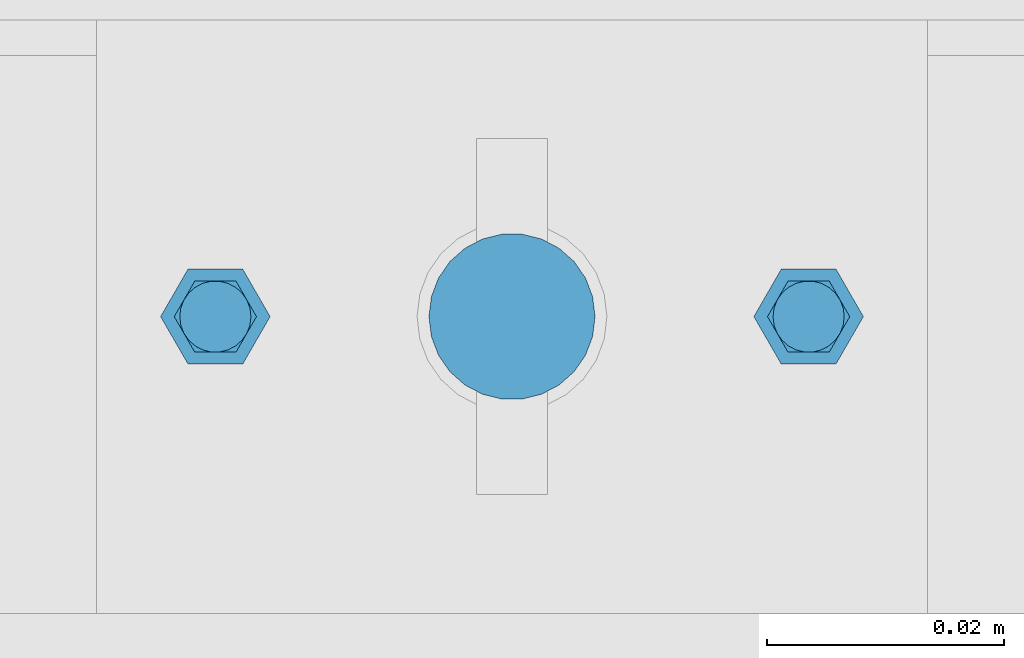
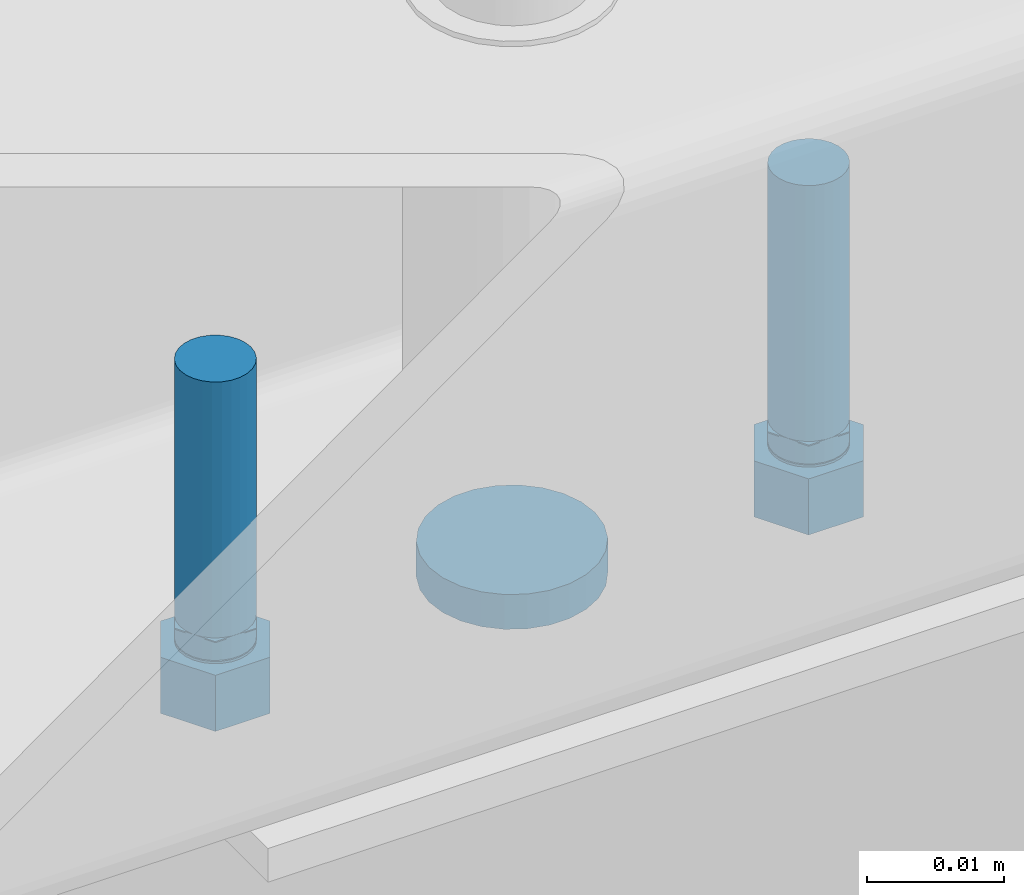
# One storey, part 28 of 91: 5 mechanical fasteners, 2 elements without a shape of their own.
"""IFC2X3 building model written with IfcOpenShell, lengths in millimetres."""

from ifc_helpers import new_model, si_unit, frame, origin_with_axes, origin_2d_with_axis, place, context, subcontext, project, spatial, polyline, circle, outline, extrude, source, transform, mapped, material, type_object, element, aggregate, save


model = new_model("IFC2X3")

# Units and contexts
model_context = context("Model", 3, precision=1e-05, world=origin_with_axes())
body_context = subcontext(model_context, "Body", "Model", "MODEL_VIEW")
ifc_project = project(units=[si_unit("LENGTHUNIT", "METRE", prefix="MILLI"), si_unit("AREAUNIT", "SQUARE_METRE"), si_unit("VOLUMEUNIT", "CUBIC_METRE"), si_unit("MASSUNIT", "GRAM", prefix="KILO"), si_unit("TIMEUNIT", "SECOND"), si_unit("PLANEANGLEUNIT", "RADIAN"), si_unit("SOLIDANGLEUNIT", "STERADIAN"), si_unit("THERMODYNAMICTEMPERATUREUNIT", "DEGREE_CELSIUS"), si_unit("LUMINOUSINTENSITYUNIT", "LUMEN")], contexts=[model_context])

# Site, building, storey
site_placement = place(None, origin_with_axes())
site = spatial("IfcSite", under=ifc_project, at=site_placement, Name="Undefined", CompositionType="ELEMENT")
building_placement = place(site_placement, origin_with_axes())
building = spatial("IfcBuilding", under=site, at=building_placement, Name="Undefined", CompositionType="ELEMENT")
storey_placement = place(building_placement, origin_with_axes())
storey = spatial("IfcBuildingStorey", under=building, at=storey_placement, Name="Undefined", CompositionType="ELEMENT", Elevation=0.0)

# Assembly, mechanical fasteners
assembly_1_placement = place(storey_placement, origin_with_axes())
assembly_1 = element("IfcElementAssembly", 1, at=assembly_1_placement, inside=storey, Name="ROD", AssemblyPlace="NOTDEFINED", PredefinedType="RIGID_FRAME")
ifc_material_1 = material(Name="8.8S")
discrete_accessory_type = type_object("IfcDiscreteAccessoryType", Name="Bolt assembly")
shared_shape_1 = source(origin_with_axes(), body_context, "Body", "SweptSolid", [
    extrude(circle(Radius=3.0, at=origin_2d_with_axis()), frame((0.0, -1.0, 0.0), z_axis=(0.0, 1.0, 0.0), x_axis=(1.0, 0.0, 0.0)), (0.0, 0.0, 1.0), 3.1),
])
mechanical_fastener_1_placement = place(assembly_1_placement, frame((-113908.34, 84712.15, 3324.0), z_axis=(0.0, 1.0, 0.0), x_axis=(-1.0, 0.0, 0.0)))
mechanical_fastener_1 = element("IfcMechanicalFastener", 2, at=mechanical_fastener_1_placement, type_object=discrete_accessory_type, material=ifc_material_1, Name="Bolt assembly", NominalDiameter=6.0, NominalLength=3.0, context=body_context, shape_type="MappedRepresentation", body=[
    mapped(shared_shape_1, transform((0.0, 0.0, 0.0))),
])
mechanical_fastener_2_placement = place(assembly_1_placement, frame((-113958.34, 84712.15, 3324.0), z_axis=(0.0, -1.0, 0.0), x_axis=(1.0, 0.0, 0.0)))
mechanical_fastener_2 = element("IfcMechanicalFastener", 3, at=mechanical_fastener_2_placement, type_object=discrete_accessory_type, material=ifc_material_1, Name="Bolt assembly", NominalDiameter=6.0, NominalLength=3.0, context=body_context, shape_type="MappedRepresentation", body=[
    mapped(shared_shape_1, transform((0.0, 0.0, 0.0))),
])
shared_shape_2 = source(origin_with_axes(), body_context, "Body", "SweptSolid", [
    extrude(circle(Radius=7.0, at=origin_2d_with_axis()), frame((0.0, -1.0, 0.0), z_axis=(0.0, 1.0, 0.0), x_axis=(1.0, 0.0, 0.0)), (0.0, 0.0, 1.0), 3.1),
])
mechanical_fastener_3_placement = place(assembly_1_placement, frame((-113933.34, 84712.15, 3324.0), z_axis=(0.0, -1.0, 0.0), x_axis=(1.0, 0.0, 0.0)))
mechanical_fastener_3 = element("IfcMechanicalFastener", 4, at=mechanical_fastener_3_placement, type_object=discrete_accessory_type, material=ifc_material_1, Name="Bolt assembly", NominalDiameter=12.0, NominalLength=3.0, context=body_context, shape_type="MappedRepresentation", body=[
    mapped(shared_shape_2, transform((0.0, 0.0, 0.0))),
])
aggregate(assembly_1, [mechanical_fastener_1, mechanical_fastener_2, mechanical_fastener_3])

assembly_2_placement = place(storey_placement, origin_with_axes())
assembly_2 = element("IfcElementAssembly", 5, at=assembly_2_placement, inside=storey, Name="SLIDING DOOR", AssemblyPlace="NOTDEFINED", PredefinedType="RIGID_FRAME")
ifc_material_2 = material(Name="TEK_11TPIM")
shared_shape_3 = source(origin_with_axes(), body_context, "Body", "SweptSolid", [
    extrude(circle(Radius=3.0, at=origin_2d_with_axis()), frame((0.0, 0.0, 0.0), z_axis=(0.0, 1.0, 0.0), x_axis=(1.0, 0.0, 0.0)), (0.0, 0.0, 1.0), 2.1),
    extrude(outline(polyline([(4.61880215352, 0.0), (2.30940107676, 4.00000000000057), (-2.30940107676, 4.00000000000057), (-4.61880215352, 0.0), (-2.30940107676, -4.00000000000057), (2.30940107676, -4.00000000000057), (4.61880215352, 0.0)])), frame((0.0, -5.0, 0.0), z_axis=(0.0, 1.0, 0.0), x_axis=(1.0, 0.0, 0.0)), (0.0, 0.0, 1.0), 5.0),
    extrude(circle(Radius=3.0, at=origin_2d_with_axis()), frame((0.0, 0.0, 0.0), z_axis=(0.0, 1.0, 0.0), x_axis=(1.0, 0.0, 0.0)), (0.0, 0.0, 1.0), 25.0),
    extrude(circle(Radius=3.0, at=origin_2d_with_axis()), frame((0.0, 2.00000000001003, 0.0), z_axis=(0.0, 1.0, 0.0), x_axis=(1.0, 0.0, 0.0)), (0.0, 0.0, 1.0), 0.1),
    extrude(outline(polyline([(3.46410161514, 0.0), (1.73205080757, 3.00000000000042), (-1.73205080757, 3.00000000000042), (-3.46410161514, 0.0), (-1.73205080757, -3.00000000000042), (1.73205080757, -3.00000000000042), (3.46410161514, 0.0)])), frame((0.0, 2.10000000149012, 0.0), z_axis=(0.0, 1.0, 0.0), x_axis=(1.0, 0.0, 0.0)), (0.0, 0.0, 1.0), 0.1),
])
mechanical_fastener_4_placement = place(assembly_2_placement, frame((-113908.34, 84712.15, 3326.0), z_axis=(0.0, 1.0, 0.0), x_axis=(-1.0, 0.0, 0.0)))
mechanical_fastener_4 = element("IfcMechanicalFastener", 6, at=mechanical_fastener_4_placement, type_object=discrete_accessory_type, material=ifc_material_2, Name="Bolt assembly", NominalDiameter=6.0, NominalLength=25.0, context=body_context, shape_type="MappedRepresentation", body=[
    mapped(shared_shape_3, transform((0.0, 0.0, 0.0))),
])
mechanical_fastener_5_placement = place(assembly_2_placement, frame((-113958.34, 84712.15, 3326.0), z_axis=(0.0, -1.0, 0.0), x_axis=(1.0, 0.0, 0.0)))
mechanical_fastener_5 = element("IfcMechanicalFastener", 7, at=mechanical_fastener_5_placement, type_object=discrete_accessory_type, material=ifc_material_2, Name="Bolt assembly", NominalDiameter=6.0, NominalLength=25.0, context=body_context, shape_type="MappedRepresentation", body=[
    mapped(shared_shape_3, transform((0.0, 0.0, 0.0))),
])
aggregate(assembly_2, [mechanical_fastener_4, mechanical_fastener_5])

save(model, "model.ifc")
